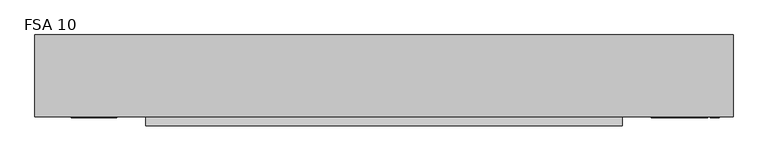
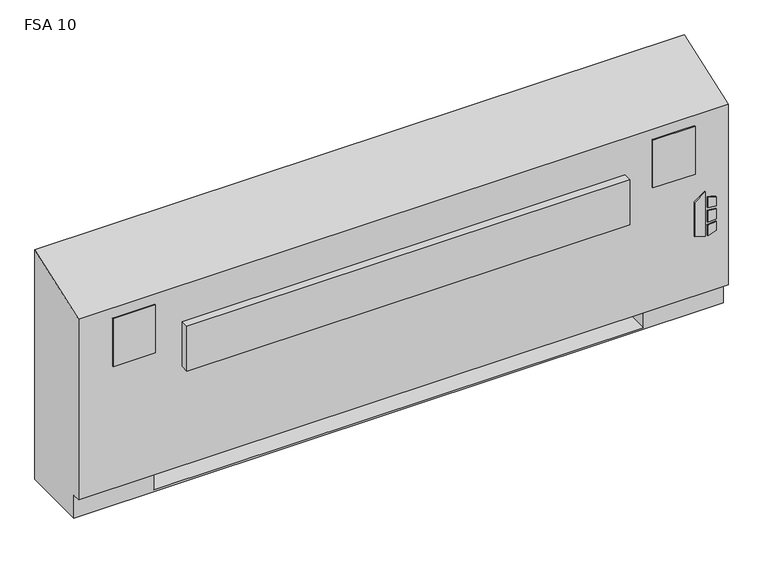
"""IFC4 building model written with IfcOpenShell, lengths in millimetres: proxy geometry, Vertical_Fan_Coil_Unit_-_FSA_-_IEC_-_2-Pipe_FS-FR_LH_2022 : FSA 10."""

from ifc_helpers import new_model, si_unit, point, frame, frame_2d, origin, place, context, project, spatial, polyline, circle_curve, trimmed, segment, composite_curve, outline, extrude, source, transform, mapped, element, save
from ifc_brep_helpers import plane_surface, revolved_surface, advanced_brep


def fsa_10_823466e5(model_context):
    return source(origin(), model_context, "Body", "SolidModel", [
        extrude(outline(polyline([(263.9480703, 1027.1868862), (254.0, 1059.3602728), (396.1709244, 1059.3602728), (373.1489183, 1027.1868862), (263.9480703, 1027.1868862)])), frame((0.0, 12.7, 0.0), z_axis=(0.0, 1.0, 0.0), x_axis=(0.0, 0.0, 1.0)), (0.0, 0.0, 1.0), 3.175),
        extrude(outline(polyline([(342.9473557, 1066.1186058), (339.7449632, 1092.2), (368.9738042, 1092.2), (377.0382193, 1066.1186058), (342.9473557, 1066.1186058)])), frame((0.0, 12.7, 0.0), z_axis=(0.0, 1.0, 0.0), x_axis=(0.0, 0.0, 1.0)), (0.0, 0.0, 1.0), 3.175),
        extrude(outline(polyline([(291.0838288, 1092.2), (287.4183279, 1066.1186058), (254.0, 1066.1186058), (262.6342372, 1092.2), (291.0838288, 1092.2)])), frame((0.0, 12.7, 0.0), z_axis=(0.0, 1.0, 0.0), x_axis=(0.0, 0.0, 1.0)), (0.0, 0.0, 1.0), 3.175),
        extrude(outline(polyline([(330.3989903, 1092.2), (332.6808166, 1066.1186058), (296.7432681, 1066.1186058), (299.4845331, 1092.2), (330.3989903, 1092.2)])), frame((0.0, 12.7, 0.0), z_axis=(0.0, 1.0, 0.0), x_axis=(0.0, 0.0, 1.0)), (0.0, 0.0, 1.0), 3.175),
        extrude(outline(polyline([(1009.65, 223.266), (1009.65, 81.534), (889.0, 81.534), (889.0, 223.266), (1009.65, 223.266)])), frame((0.0, 0.0, 327.025), z_axis=(0.0, 0.0, 1.0), x_axis=(1.0, 0.0, 0.0)), (0.0, 0.0, 1.0), 260.35),
        extrude(outline(polyline([(-596.9, 12.7), (-723.9, 12.7), (-723.9, 15.875), (-596.9, 15.875), (-596.9, 12.7)])), frame((0.0, 0.0, 463.55), z_axis=(0.0, 0.0, 1.0), x_axis=(1.0, 0.0, 0.0)), (0.0, 0.0, 1.0), 152.4),
        extrude(outline(polyline([(1028.7, 12.7), (901.7, 12.7), (901.7, 15.875), (1028.7, 15.875), (1028.7, 12.7)])), frame((0.0, 0.0, 463.55), z_axis=(0.0, 0.0, 1.0), x_axis=(1.0, 0.0, 0.0)), (0.0, 0.0, 1.0), 152.4),
        extrude(outline(composite_curve([segment(trimmed(circle_curve(frame_2d((-647.7, 130.175)), 9.525), [point((-657.225, 130.175))], [point((-638.175, 130.175))], False, "CARTESIAN"), True, "CONTINUOUS"), segment(trimmed(circle_curve(frame_2d((-647.7, 130.175)), 9.525), [point((-638.175, 130.175))], [point((-657.225, 130.175))], False, "CARTESIAN"), True, "CONTINUOUS")], self_intersect=False)), frame((0.0, 0.0, 101.6), z_axis=(0.0, 0.0, 1.0), x_axis=(1.0, 0.0, 0.0)), (0.0, 0.0, 1.0), 25.4),
        extrude(outline(polyline([(-749.3, 63.5), (-749.3, 196.85), (-584.2, 196.85), (-584.2, 63.5), (-749.3, 63.5)])), frame((0.0, 0.0, 127.0), z_axis=(0.0, 0.0, 1.0), x_axis=(1.0, 0.0, 0.0)), (0.0, 0.0, 1.0), 50.8),
        extrude(outline(polyline([(819.15, -9.525), (-514.35, -9.525), (-514.35, 15.875), (819.15, 15.875), (819.15, -9.525)])), frame((0.0, 0.0, 389.3009245), z_axis=(0.0, 0.0, 1.0), x_axis=(1.0, 0.0, 0.0)), (0.0, 0.0, 1.0), 142.875),
        extrude(outline(composite_curve([segment(trimmed(circle_curve(frame_2d((109.347, 456.819)), 7.9375), [point((109.347, 464.7565))], [point((109.347, 448.8815))], False, "CARTESIAN"), True, "CONTINUOUS"), segment(trimmed(circle_curve(frame_2d((109.347, 456.819)), 7.9375), [point((109.347, 448.8815))], [point((109.347, 464.7565))], False, "CARTESIAN"), True, "CONTINUOUS")], self_intersect=False)), frame((-635.0, 0.0, 0.0), z_axis=(1.0, 0.0, 0.0), x_axis=(0.0, 1.0, 0.0)), (0.0, 0.0, 1.0), 50.8),
        extrude(outline(composite_curve([segment(trimmed(circle_curve(frame_2d((157.4546, 429.4632)), 7.9375), [point((157.4546, 437.4007))], [point((157.4546, 421.5257))], False, "CARTESIAN"), True, "CONTINUOUS"), segment(trimmed(circle_curve(frame_2d((157.4546, 429.4632)), 7.9375), [point((157.4546, 421.5257))], [point((157.4546, 437.4007))], False, "CARTESIAN"), True, "CONTINUOUS")], self_intersect=False)), frame((-635.0, 0.0, 0.0), z_axis=(1.0, 0.0, 0.0), x_axis=(0.0, 1.0, 0.0)), (0.0, 0.0, 1.0), 50.8),
        advanced_brep(
        [(-825.5, 244.475, 0.0), (1130.3, 244.475, 0.0), (1130.3, 41.275, 0.0), (-825.5, 41.275, 0.0), (-825.5, 244.475, 730.25), (1130.3, 244.475, 730.25), (889.0, 244.475, 73.025), (1117.6, 244.475, 73.025), (1117.6, 244.475, 654.05), (889.0, 244.475, 654.05), (889.0, 244.475, 414.8650565), (917.575, 244.475, 414.8650565), (917.575, 244.475, 385.2349435), (889.0, 244.475, 385.2349435), (889.0, 244.475, 287.3375), (917.575, 244.475, 287.3375), (917.575, 244.475, 258.7625), (889.0, 244.475, 258.7625), (889.0, 244.475, 141.2875), (917.575, 244.475, 141.2875), (917.575, 244.475, 112.7125), (889.0, 244.475, 112.7125), (-584.2, 244.475, 654.05), (-812.8, 244.475, 654.05), (-812.8, 244.475, 73.025), (-584.2, 244.475, 73.025), (-584.2, 244.475, 112.7125), (-612.775, 244.475, 112.7125), (-612.775, 244.475, 141.2875), (-584.2, 244.475, 141.2875), (-584.2, 244.475, 258.7625), (-612.775, 244.475, 258.7625), (-612.775, 244.475, 287.3375), (-584.2, 244.475, 287.3375), (-584.2, 244.475, 385.2349435), (-612.775, 244.475, 385.2349435), (-612.775, 244.475, 414.8650565), (-584.2, 244.475, 414.8650565), (907.2626, 244.475, 127.0), (896.1374, 244.475, 127.0), (907.2626, 244.475, 400.05), (896.1374, 244.475, 400.05), (907.2626, 244.475, 273.05), (896.1374, 244.475, 273.05), (-591.3374, 244.475, 127.0), (-602.4626, 244.475, 127.0), (-591.3374, 244.475, 273.05), (-602.4626, 244.475, 273.05), (-591.3374, 244.475, 400.05), (-602.4626, 244.475, 400.05), (-825.5, 41.275, 73.025), (-825.5, 15.875, 73.025), (-825.5, 15.875, 647.7), (1130.3, 15.875, 73.025), (1130.3, 15.875, 647.7), (1130.3, 41.275, 73.025), (-584.2, 41.275, 73.025), (-584.2, 225.425, 73.025), (889.0, 225.425, 73.025), (889.0, 41.275, 73.025), (889.0, 41.275, 6.35), (-584.2, 41.275, 6.35), (889.0, 41.275, 654.05), (1117.6, 41.275, 654.05), (1117.6, 41.275, 73.025), (889.0, 41.275, 73.025), (-584.2, 41.275, 654.05), (-584.2, 41.275, 73.025), (-812.8, 41.275, 73.025), (-812.8, 41.275, 654.05), (889.0, 225.425, 73.025), (889.0, 238.125, 112.7125), (889.0, 238.125, 141.2875), (889.0, 238.125, 258.7625), (889.0, 238.125, 287.3375), (889.0, 238.125, 385.2349435), (889.0, 238.125, 414.8650565), (-584.2, 225.425, 73.025), (-584.2, 238.125, 414.8650565), (-584.2, 238.125, 385.2349435), (-584.2, 238.125, 287.3375), (-584.2, 238.125, 258.7625), (-584.2, 238.125, 141.2875), (-584.2, 238.125, 112.7125), (-584.2, 225.425, 6.35), (889.0, 225.425, 6.35), (917.575, 238.125, 112.7125), (917.575, 238.125, 141.2875), (896.1374, 238.125, 127.0), (907.2626, 238.125, 127.0), (917.575, 238.125, 258.7625), (917.575, 238.125, 287.3375), (896.1374, 238.125, 273.05), (907.2626, 238.125, 273.05), (917.575, 238.125, 385.2349435), (917.575, 238.125, 414.8650565), (896.1374, 238.125, 400.05), (907.2626, 238.125, 400.05), (-612.775, 238.125, 141.2875), (-612.775, 238.125, 112.7125), (-602.4626, 238.125, 127.0), (-591.3374, 238.125, 127.0), (-612.775, 238.125, 287.3375), (-612.775, 238.125, 258.7625), (-602.4626, 238.125, 273.05), (-591.3374, 238.125, 273.05), (-612.775, 238.125, 414.8650565), (-612.775, 238.125, 385.2349435), (-602.4626, 238.125, 400.05), (-591.3374, 238.125, 400.05)],
        [
            (0, 1),
            (1, 2),
            (2, 3),
            (3, 0),
            (0, 4),
            (4, 5),
            (5, 1),
            (6, 7),
            (7, 8),
            (8, 9),
            (9, 10),
            (10, 11),
            (11, 12),
            (12, 13),
            (13, 14),
            (14, 15),
            (15, 16),
            (16, 17),
            (17, 18),
            (18, 19),
            (19, 20),
            (20, 21),
            (21, 6),
            (22, 23),
            (23, 24),
            (24, 25),
            (25, 26),
            (26, 27),
            (27, 28),
            (28, 29),
            (29, 30),
            (30, 31),
            (31, 32),
            (32, 33),
            (33, 34),
            (34, 35),
            (35, 36),
            (36, 37),
            (37, 22),
            (38, 39, circle_curve(frame((901.7, 244.475, 127.0), z_axis=(0.0, -1.0, 0.0), x_axis=(-1.0, 0.0, 0.0)), 5.5626)),
            (39, 38, circle_curve(frame((901.7, 244.475, 127.0), z_axis=(0.0, -1.0, 0.0), x_axis=(-1.0, 0.0, 0.0)), 5.5626)),
            (40, 41, circle_curve(frame((901.7, 244.475, 400.05), z_axis=(0.0, -1.0, 0.0), x_axis=(-1.0, 0.0, 0.0)), 5.5626)),
            (41, 40, circle_curve(frame((901.7, 244.475, 400.05), z_axis=(0.0, -1.0, 0.0), x_axis=(-1.0, 0.0, 0.0)), 5.5626)),
            (42, 43, circle_curve(frame((901.7, 244.475, 273.05), z_axis=(0.0, -1.0, 0.0), x_axis=(-1.0, 0.0, 0.0)), 5.5626)),
            (43, 42, circle_curve(frame((901.7, 244.475, 273.05), z_axis=(0.0, -1.0, 0.0), x_axis=(-1.0, 0.0, 0.0)), 5.5626)),
            (44, 45, circle_curve(frame((-596.9, 244.475, 127.0), z_axis=(0.0, -1.0, 0.0), x_axis=(-1.0, 0.0, 0.0)), 5.5626)),
            (45, 44, circle_curve(frame((-596.9, 244.475, 127.0), z_axis=(0.0, -1.0, 0.0), x_axis=(-1.0, 0.0, 0.0)), 5.5626)),
            (46, 47, circle_curve(frame((-596.9, 244.475, 273.05), z_axis=(0.0, -1.0, 0.0), x_axis=(-1.0, 0.0, 0.0)), 5.5626)),
            (47, 46, circle_curve(frame((-596.9, 244.475, 273.05), z_axis=(0.0, -1.0, 0.0), x_axis=(-1.0, 0.0, 0.0)), 5.5626)),
            (48, 49, circle_curve(frame((-596.9, 244.475, 400.05), z_axis=(0.0, -1.0, 0.0), x_axis=(-1.0, 0.0, 0.0)), 5.5626)),
            (49, 48, circle_curve(frame((-596.9, 244.475, 400.05), z_axis=(0.0, -1.0, 0.0), x_axis=(-1.0, 0.0, 0.0)), 5.5626)),
            (3, 50),
            (50, 51),
            (51, 52),
            (52, 4),
            (51, 53),
            (53, 54),
            (54, 52),
            (5, 54),
            (53, 55),
            (55, 2),
            (50, 56),
            (56, 57),
            (57, 58),
            (58, 59),
            (59, 55),
            (59, 60),
            (60, 61),
            (61, 56),
            (62, 63),
            (63, 64),
            (64, 65),
            (65, 62),
            (66, 67),
            (67, 68),
            (68, 69),
            (69, 66),
            (65, 70),
            (70, 6),
            (21, 71),
            (71, 72),
            (72, 18),
            (17, 73),
            (73, 74),
            (74, 14),
            (13, 75),
            (75, 76),
            (76, 10),
            (9, 62),
            (64, 7),
            (63, 8),
            (69, 23),
            (22, 66),
            (68, 24),
            (67, 77),
            (77, 25),
            (37, 78),
            (78, 79),
            (79, 34),
            (33, 80),
            (80, 81),
            (81, 30),
            (29, 82),
            (82, 83),
            (83, 26),
            (57, 84),
            (84, 85),
            (85, 58),
            (85, 60),
            (84, 61),
            (71, 86),
            (86, 87),
            (87, 72),
            (88, 89, circle_curve(frame((901.7, 238.125, 127.0), z_axis=(0.0, 1.0, 0.0), x_axis=(-1.0, 0.0, 0.0)), 5.5626)),
            (89, 88, circle_curve(frame((901.7, 238.125, 127.0), z_axis=(0.0, 1.0, 0.0), x_axis=(-1.0, 0.0, 0.0)), 5.5626)),
            (73, 90),
            (90, 91),
            (91, 74),
            (92, 93, circle_curve(frame((901.7, 238.125, 273.05), z_axis=(0.0, 1.0, 0.0), x_axis=(-1.0, 0.0, 0.0)), 5.5626)),
            (93, 92, circle_curve(frame((901.7, 238.125, 273.05), z_axis=(0.0, 1.0, 0.0), x_axis=(-1.0, 0.0, 0.0)), 5.5626)),
            (75, 94),
            (94, 95),
            (95, 76),
            (96, 97, circle_curve(frame((901.7, 238.125, 400.05), z_axis=(0.0, 1.0, 0.0), x_axis=(-1.0, 0.0, 0.0)), 5.5626)),
            (97, 96, circle_curve(frame((901.7, 238.125, 400.05), z_axis=(0.0, 1.0, 0.0), x_axis=(-1.0, 0.0, 0.0)), 5.5626)),
            (98, 99),
            (99, 83),
            (82, 98),
            (100, 101, circle_curve(frame((-596.9, 238.125, 127.0), z_axis=(0.0, 1.0, 0.0), x_axis=(-1.0, 0.0, 0.0)), 5.5626)),
            (101, 100, circle_curve(frame((-596.9, 238.125, 127.0), z_axis=(0.0, 1.0, 0.0), x_axis=(-1.0, 0.0, 0.0)), 5.5626)),
            (102, 103),
            (103, 81),
            (80, 102),
            (104, 105, circle_curve(frame((-596.9, 238.125, 273.05), z_axis=(0.0, 1.0, 0.0), x_axis=(-1.0, 0.0, 0.0)), 5.5626)),
            (105, 104, circle_curve(frame((-596.9, 238.125, 273.05), z_axis=(0.0, 1.0, 0.0), x_axis=(-1.0, 0.0, 0.0)), 5.5626)),
            (106, 107),
            (107, 79),
            (78, 106),
            (108, 109, circle_curve(frame((-596.9, 238.125, 400.05), z_axis=(0.0, 1.0, 0.0), x_axis=(-1.0, 0.0, 0.0)), 5.5626)),
            (109, 108, circle_curve(frame((-596.9, 238.125, 400.05), z_axis=(0.0, 1.0, 0.0), x_axis=(-1.0, 0.0, 0.0)), 5.5626)),
            (87, 19),
            (86, 20),
            (91, 15),
            (90, 16),
            (95, 11),
            (94, 12),
            (28, 98),
            (99, 27),
            (32, 102),
            (103, 31),
            (36, 106),
            (107, 35),
            (88, 39),
            (38, 89),
            (96, 41),
            (40, 97),
            (92, 43),
            (42, 93),
            (100, 45),
            (44, 101),
            (104, 47),
            (46, 105),
            (108, 49),
            (48, 109),
        ],
        [
            plane_surface(frame((-825.5, 244.475, 0.0), z_axis=(0.0, 0.0, -1.0), x_axis=(1.0, 0.0, 0.0))),
            plane_surface(frame((1130.3, 244.475, 730.25), z_axis=(0.0, 1.0, 0.0), x_axis=(0.0, 0.0, -1.0))),
            plane_surface(frame((-825.5, 244.475, 730.25), z_axis=(-1.0, 0.0, 0.0), x_axis=(0.0, 0.0, -1.0))),
            plane_surface(frame((-825.5, 15.875, 730.25), z_axis=(0.0, -1.0, 0.0), x_axis=(0.0, 0.0, -1.0))),
            plane_surface(frame((1130.3, 15.875, 730.25), z_axis=(1.0, 0.0, 0.0), x_axis=(0.0, 0.0, -1.0))),
            plane_surface(frame((-825.5, 15.875, 73.025), z_axis=(0.0, 0.0, -1.0), x_axis=(1.0, 0.0, 0.0))),
            plane_surface(frame((-825.5, 41.275, 73.025), z_axis=(0.0, -1.0, 0.0), x_axis=(1.0, 0.0, 0.0))),
            plane_surface(frame((889.0, 41.275, 654.05), z_axis=(0.0, 1.0, 0.0), x_axis=(0.0, 0.0, -1.0))),
            plane_surface(frame((889.0, 41.275, 654.05), z_axis=(1.0, 0.0, 0.0), x_axis=(0.0, 1.0, 0.0))),
            plane_surface(frame((889.0, 41.275, 73.025), z_axis=(0.0, 0.0, 1.0), x_axis=(0.0, 1.0, 0.0))),
            plane_surface(frame((1117.6, 41.275, 73.025), z_axis=(-1.0, 0.0, 0.0), x_axis=(0.0, 1.0, 0.0))),
            plane_surface(frame((1117.6, 41.275, 654.05), z_axis=(0.0, 0.0, -1.0), x_axis=(0.0, 1.0, 0.0))),
            plane_surface(frame((-584.2, 41.275, 654.05), z_axis=(0.0, 0.0, -1.0), x_axis=(0.0, 1.0, 0.0))),
            plane_surface(frame((-812.8, 41.275, 654.05), z_axis=(1.0, 0.0, 0.0), x_axis=(0.0, 1.0, 0.0))),
            plane_surface(frame((-812.8, 41.275, 73.025), z_axis=(0.0, 0.0, 1.0), x_axis=(0.0, 1.0, 0.0))),
            plane_surface(frame((-584.2, 41.275, 73.025), z_axis=(-1.0, 0.0, 0.0), x_axis=(0.0, 1.0, 0.0))),
            plane_surface(frame((889.0, 225.425, 73.025), z_axis=(0.0, -1.0, 0.0), x_axis=(0.0, 0.0, -1.0))),
            plane_surface(frame((889.0, 225.425, 73.025), z_axis=(-1.0, 0.0, 0.0), x_axis=(0.0, -1.0, 0.0))),
            plane_surface(frame((889.0, 225.425, 6.35), z_axis=(0.0, 0.0, 1.0), x_axis=(0.0, -1.0, 0.0))),
            plane_surface(frame((-584.2, 225.425, 6.35), z_axis=(1.0, 0.0, 0.0), x_axis=(0.0, -1.0, 0.0))),
            plane_surface(frame((917.575, 238.125, 141.2875), z_axis=(0.0, -1.0, 0.0), x_axis=(-1.0, 0.0, 0.0))),
            plane_surface(frame((889.0, 244.475, 141.2875), z_axis=(0.0, 0.0, 1.0), x_axis=(0.0, -1.0, 0.0))),
            plane_surface(frame((917.575, 244.475, 141.2875), z_axis=(1.0, 0.0, 0.0), x_axis=(0.0, -1.0, 0.0))),
            plane_surface(frame((917.575, 244.475, 112.7125), z_axis=(0.0, 0.0, -1.0), x_axis=(0.0, -1.0, 0.0))),
            plane_surface(frame((889.0, 244.475, 287.3375), z_axis=(0.0, 0.0, 1.0), x_axis=(0.0, -1.0, 0.0))),
            plane_surface(frame((917.575, 244.475, 287.3375), z_axis=(1.0, 0.0, 0.0), x_axis=(0.0, -1.0, 0.0))),
            plane_surface(frame((917.575, 244.475, 258.7625), z_axis=(0.0, 0.0, -1.0), x_axis=(0.0, -1.0, 0.0))),
            plane_surface(frame((889.0, 244.475, 414.8650565), z_axis=(0.0, 0.0, 1.0), x_axis=(0.0, -1.0, 0.0))),
            plane_surface(frame((917.575, 244.475, 414.8650565), z_axis=(1.0, 0.0, 0.0), x_axis=(0.0, -1.0, 0.0))),
            plane_surface(frame((917.575, 244.475, 385.2349435), z_axis=(0.0, 0.0, -1.0), x_axis=(0.0, -1.0, 0.0))),
            plane_surface(frame((-612.775, 244.475, 141.2875), z_axis=(0.0, 0.0, 1.0), x_axis=(0.0, -1.0, 0.0))),
            plane_surface(frame((-584.2, 244.475, 112.7125), z_axis=(0.0, 0.0, -1.0), x_axis=(0.0, -1.0, 0.0))),
            plane_surface(frame((-612.775, 244.475, 112.7125), z_axis=(-1.0, 0.0, 0.0), x_axis=(0.0, -1.0, 0.0))),
            plane_surface(frame((-612.775, 244.475, 287.3375), z_axis=(0.0, 0.0, 1.0), x_axis=(0.0, -1.0, 0.0))),
            plane_surface(frame((-584.2, 244.475, 258.7625), z_axis=(0.0, 0.0, -1.0), x_axis=(0.0, -1.0, 0.0))),
            plane_surface(frame((-612.775, 244.475, 258.7625), z_axis=(-1.0, 0.0, 0.0), x_axis=(0.0, -1.0, 0.0))),
            plane_surface(frame((-612.775, 244.475, 414.8650565), z_axis=(0.0, 0.0, 1.0), x_axis=(0.0, -1.0, 0.0))),
            plane_surface(frame((-584.2, 244.475, 385.2349435), z_axis=(0.0, 0.0, -1.0), x_axis=(0.0, -1.0, 0.0))),
            plane_surface(frame((-612.775, 244.475, 385.2349435), z_axis=(-1.0, 0.0, 0.0), x_axis=(0.0, -1.0, 0.0))),
            revolved_surface(polyline([(896.1374000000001, 238.125, 127.0), (896.1374000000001, 244.475, 127.0)]), (901.7, 244.475, 127.0), (0.0, -1.0, 0.0)),
            revolved_surface(polyline([(896.1374000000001, 238.125, 400.05), (896.1374000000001, 244.475, 400.05)]), (901.7, 244.475, 400.05), (0.0, -1.0, 0.0)),
            revolved_surface(polyline([(896.1374000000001, 238.125, 273.05), (896.1374000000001, 244.475, 273.05)]), (901.7, 244.475, 273.05), (0.0, -1.0, 0.0)),
            revolved_surface(polyline([(-602.4626, 238.125, 127.0), (-602.4626, 244.475, 127.0)]), (-596.9, 244.475, 127.0), (0.0, -1.0, 0.0)),
            revolved_surface(polyline([(-602.4626, 238.125, 273.05), (-602.4626, 244.475, 273.05)]), (-596.9, 244.475, 273.05), (0.0, -1.0, 0.0)),
            revolved_surface(polyline([(-602.4626, 238.125, 400.05), (-602.4626, 244.475, 400.05)]), (-596.9, 244.475, 400.05), (0.0, -1.0, 0.0)),
            plane_surface(frame((-825.5, 244.475, 730.25), z_axis=(0.0, -0.33964446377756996, 0.9405538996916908), x_axis=(1.0, 0.0, 0.0))),
        ],
        [
            (0, [[1, 2, 3, 4]]),
            (1, [[-1, 5, 6, 7], [8, 9, 10, 11, 12, 13, 14, 15, 16, 17, 18, 19, 20, 21, 22, 23], [24, 25, 26, 27, 28, 29, 30, 31, 32, 33, 34, 35, 36, 37, 38, 39], [40, 41], [42, 43], [44, 45], [46, 47], [48, 49], [50, 51]]),
            (2, [[-5, -4, 52, 53, 54, 55]]),
            (3, [[56, 57, 58, -54]]),
            (4, [[-7, 59, -57, 60, 61, -2]]),
            (5, [[-53, 62, 63, 64, 65, 66, -60, -56]]),
            (6, [[-3, -61, -66, 67, 68, 69, -62, -52]]),
            (7, [[70, 71, 72, 73]]),
            (7, [[74, 75, 76, 77]]),
            (8, [[-73, 78, 79, -23, 80, 81, 82, -19, 83, 84, 85, -15, 86, 87, 88, -11, 89]]),
            (9, [[-72, 90, -8, -79, -78]]),
            (10, [[-71, 91, -9, -90]]),
            (11, [[-70, -89, -10, -91]]),
            (12, [[-77, 92, -24, 93]]),
            (13, [[-76, 94, -25, -92]]),
            (14, [[-75, 95, 96, -26, -94]]),
            (15, [[-74, -93, -39, 97, 98, 99, -35, 100, 101, 102, -31, 103, 104, 105, -27, -96, -95]]),
            (16, [[-64, 106, 107, 108]]),
            (17, [[-108, 109, -67, -65]]),
            (18, [[-107, 110, -68, -109]]),
            (19, [[-106, -63, -69, -110]]),
            (20, [[111, 112, 113, -81], [114, 115]]),
            (20, [[116, 117, 118, -84], [119, 120]]),
            (20, [[121, 122, 123, -87], [124, 125]]),
            (20, [[126, 127, -104, 128], [129, 130]]),
            (20, [[131, 132, -101, 133], [134, 135]]),
            (20, [[136, 137, -98, 138], [139, 140]]),
            (21, [[-113, 141, -20, -82]]),
            (22, [[-112, 142, -21, -141]]),
            (23, [[-111, -80, -22, -142]]),
            (24, [[-118, 143, -16, -85]]),
            (25, [[-117, 144, -17, -143]]),
            (26, [[-116, -83, -18, -144]]),
            (27, [[-123, 145, -12, -88]]),
            (28, [[-122, 146, -13, -145]]),
            (29, [[-121, -86, -14, -146]]),
            (30, [[-128, -103, -30, 147]]),
            (31, [[-127, 148, -28, -105]]),
            (32, [[-126, -147, -29, -148]]),
            (33, [[-133, -100, -34, 149]]),
            (34, [[-132, 150, -32, -102]]),
            (35, [[-131, -149, -33, -150]]),
            (36, [[-138, -97, -38, 151]]),
            (37, [[-137, 152, -36, -99]]),
            (38, [[-136, -151, -37, -152]]),
            (39, [[153, -40, 154, -114]]),
            (39, [[-153, -115, -154, -41]]),
            (40, [[155, -42, 156, -124]]),
            (40, [[-155, -125, -156, -43]]),
            (41, [[157, -44, 158, -119]]),
            (41, [[-157, -120, -158, -45]]),
            (42, [[159, -46, 160, -129]]),
            (42, [[-159, -130, -160, -47]]),
            (43, [[161, -48, 162, -134]]),
            (43, [[-161, -135, -162, -49]]),
            (44, [[163, -50, 164, -139]]),
            (44, [[-163, -140, -164, -51]]),
            (45, [[-6, -55, -58, -59]]),
        ],
    ),
    ])


if __name__ == "__main__":
    model = new_model("IFC4")
    model_context = context("Model", 3, world=origin())
    ifc_project = project(units=[si_unit("LENGTHUNIT", "METRE", prefix="MILLI")], contexts=[model_context])
    site = spatial("IfcSite", under=ifc_project)
    building = spatial("IfcBuilding", under=site)
    placement = place(None, origin())
    fsa_10_shape = fsa_10_823466e5(model_context)
    element("IfcBuildingElementProxy", 1, Name="Vertical_Fan_Coil_Unit_-_FSA_-_IEC_-_2-Pipe_FS-FR_LH_2022 : FSA 10", ObjectType="Vertical_Fan_Coil_Unit_-_FSA_-_IEC_-_2-Pipe_FS-FR_LH_2022 : FSA 10", at=placement, inside=building, context=model_context, shape_type="MappedRepresentation", body=[
        mapped(fsa_10_shape, transform((0.0, 0.0, 0.0), x_axis=(1.0, 0.0, 0.0), y_axis=(0.0, 1.0, 0.0), z_axis=(0.0, 0.0, 1.0))),
    ])
    save(model, "model.ifc")
